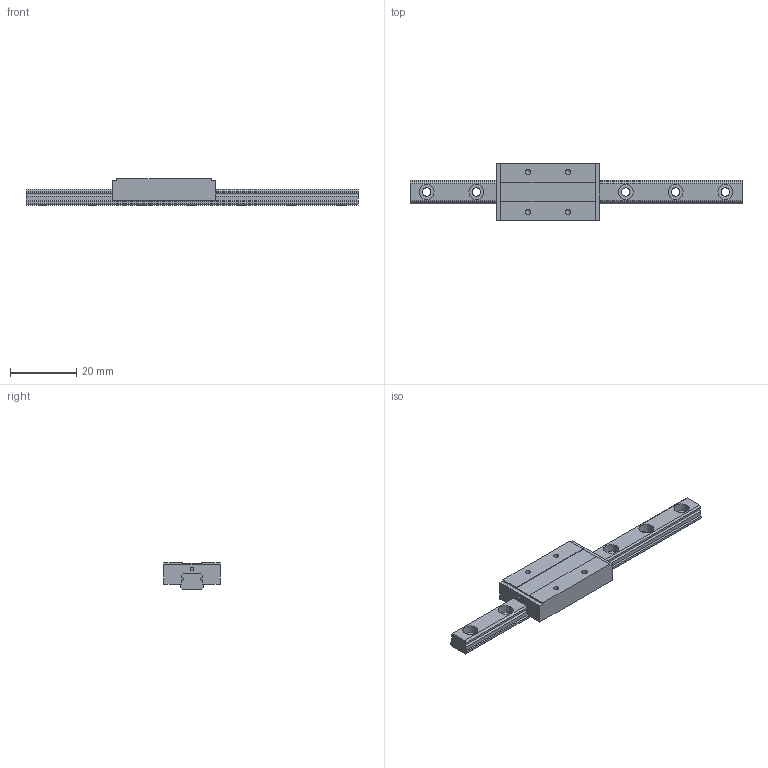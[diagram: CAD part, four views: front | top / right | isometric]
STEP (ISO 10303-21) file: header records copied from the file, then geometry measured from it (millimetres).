
FILE_DESCRIPTION((''),'2;1');
FILE_NAME('D:\製品 (図面)\カタログ用3D\リニアガイド関連\STEP形式\LGM-L\LGM7L.stp','2010-06-02T15:56:01',('Tsuchiya'),(''),'Autodesk Inventor 10','Autodesk Inventor 10','');
FILE_SCHEMA(('AUTOMOTIVE_DESIGN { 1 0 10303 214 1 1 1 1 }'));
Length unit declared in the file: millimetre
Products named in the file (3): LGM7L; LGM7L1; LGM7L2
Assembly tree (2 placements, depth 2):
  LGM7L
    LGM7L1
    LGM7L2
Bounding box: 100 x 17 x 8 mm (x, y, z)
Volume: 5368.4 mm3; surface area: 4604.6 mm2
Topology: 2 solids, 2 shells, 75 faces, 184 edges, 122 vertices
Faces by surface type: plane 39, bspline 27, cylinder 7, cone 2
Full cylindrical faces by diameter (mm): 1 x1, 1.567 x2
Entity records: 2387 total; most frequent: CARTESIAN_POINT 697, DIRECTION 308, ORIENTED_EDGE 308, EDGE_CURVE 154, EDGE_LOOP 122, VERTEX_POINT 116, VECTOR 106, LINE 106
